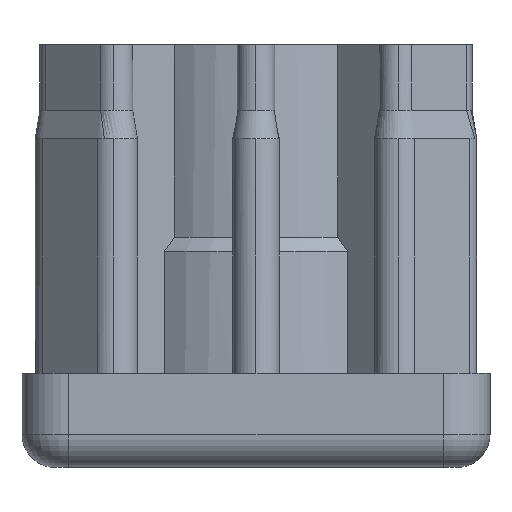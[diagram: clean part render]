
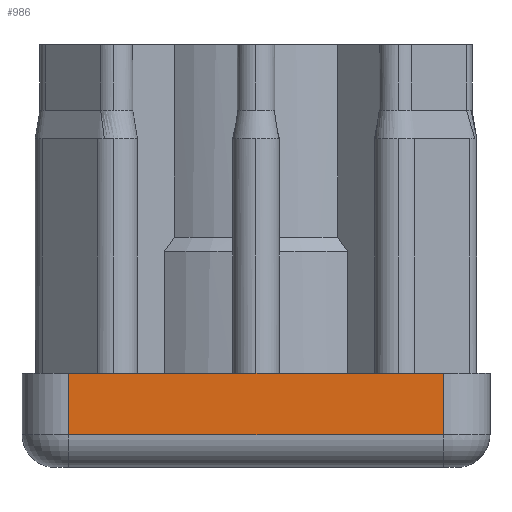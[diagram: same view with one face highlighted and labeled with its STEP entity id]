
A CAD part, left-side view. The second image highlights one B-rep face of the part: STEP entity #986.
In plain terms, the highlighted planar face has unit normal (-1, 0, 0).
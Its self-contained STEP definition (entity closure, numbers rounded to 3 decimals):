
#330 = CARTESIAN_POINT ( 'NONE',  ( -24.9, -19.9, -10. ) ) ;
#624 = FACE_OUTER_BOUND ( 'NONE', #5827, .T. ) ;
#667 = VECTOR ( 'NONE', #2440, 1000. ) ;
#685 = VECTOR ( 'NONE', #5930, 1000. ) ;
#777 = LINE ( 'NONE', #3956, #2411 ) ;
#986 = ADVANCED_FACE ( 'NONE', ( #624 ), #3653, .F. ) ;
#1071 = ORIENTED_EDGE ( 'NONE', *, *, #3336, .T. ) ;
#1106 = LINE ( 'NONE', #5331, #685 ) ;
#1465 = DIRECTION ( 'NONE',  ( 0., 1., 0. ) ) ;
#2367 = CARTESIAN_POINT ( 'NONE',  ( -24.9, 19.9, 0. ) ) ;
#2411 = VECTOR ( 'NONE', #6200, 1000. ) ;
#2440 = DIRECTION ( 'NONE',  ( 0., 0., 1. ) ) ;
#2703 = CARTESIAN_POINT ( 'NONE',  ( -24.9, 19.9, -6.5 ) ) ;
#2967 = CARTESIAN_POINT ( 'NONE',  ( -24.9, -19.9, -6.5 ) ) ;
#2978 = VERTEX_POINT ( 'NONE', #2703 ) ;
#3026 = VERTEX_POINT ( 'NONE', #7132 ) ;
#3051 = ORIENTED_EDGE ( 'NONE', *, *, #5547, .T. ) ;
#3336 = EDGE_CURVE ( 'NONE', #2978, #5667, #777, .T. ) ;
#3360 = DIRECTION ( 'NONE',  ( 0., 0., -1. ) ) ;
#3653 = PLANE ( 'NONE',  #6161 ) ;
#3667 = EDGE_CURVE ( 'NONE', #3026, #7180, #1106, .T. ) ;
#3956 = CARTESIAN_POINT ( 'NONE',  ( -24.9, -19.9, -6.5 ) ) ;
#4211 = VECTOR ( 'NONE', #3360, 1000. ) ;
#4418 = ORIENTED_EDGE ( 'NONE', *, *, #7042, .T. ) ;
#4553 = LINE ( 'NONE', #330, #667 ) ;
#4625 = LINE ( 'NONE', #6714, #4211 ) ;
#5331 = CARTESIAN_POINT ( 'NONE',  ( -24.9, -24.9, 0. ) ) ;
#5547 = EDGE_CURVE ( 'NONE', #7180, #2978, #4625, .T. ) ;
#5667 = VERTEX_POINT ( 'NONE', #2967 ) ;
#5815 = ORIENTED_EDGE ( 'NONE', *, *, #3667, .T. ) ;
#5822 = CARTESIAN_POINT ( 'NONE',  ( -24.9, -24.9, -10. ) ) ;
#5827 = EDGE_LOOP ( 'NONE', ( #3051, #1071, #4418, #5815 ) ) ;
#5844 = DIRECTION ( 'NONE',  ( 1., 0., 0. ) ) ;
#5930 = DIRECTION ( 'NONE',  ( 0., 1., 0. ) ) ;
#6161 = AXIS2_PLACEMENT_3D ( 'NONE', #5822, #5844, #1465 ) ;
#6200 = DIRECTION ( 'NONE',  ( 0., -1., 0. ) ) ;
#6714 = CARTESIAN_POINT ( 'NONE',  ( -24.9, 19.9, -10. ) ) ;
#7042 = EDGE_CURVE ( 'NONE', #5667, #3026, #4553, .T. ) ;
#7132 = CARTESIAN_POINT ( 'NONE',  ( -24.9, -19.9, 0. ) ) ;
#7180 = VERTEX_POINT ( 'NONE', #2367 ) ;
